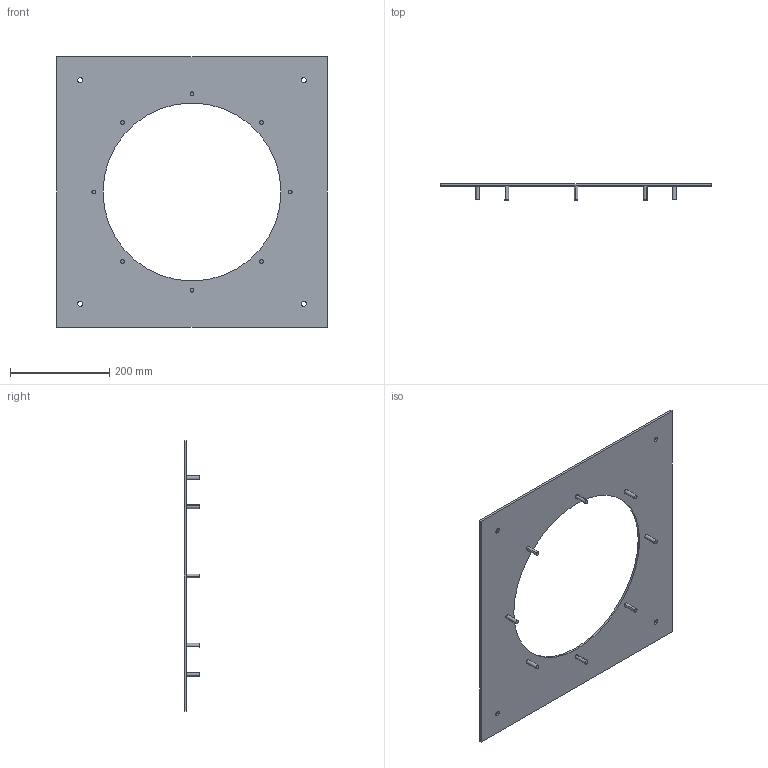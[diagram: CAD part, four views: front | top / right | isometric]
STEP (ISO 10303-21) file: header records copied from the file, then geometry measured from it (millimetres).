
FILE_DESCRIPTION(('STEP AP214'),'1');
FILE_NAME('accessory_5136823100.stp','2017-10-10T13:29:09',('TraceParts'),('TraceParts S.A.'),'Spatial InterOp 3D',' ',' ');
FILE_SCHEMA(('automotive_design'));
Length unit declared in the file: millimetre
Products named in the file (1): accessory_5136823100
Bounding box: 544 x 32 x 544 mm (x, y, z)
Volume: 791107.8 mm3; surface area: 409259.3 mm2
Topology: 1 solids, 1 shells, 40 faces, 90 edges, 60 vertices
Faces by surface type: cylinder 26, plane 14
Entity records: 1502 total; most frequent: DIRECTION 224, CARTESIAN_POINT 191, ORIENTED_EDGE 180, AXIS2_PLACEMENT_3D 93, EDGE_CURVE 90, VERTEX_POINT 60, EDGE_LOOP 58, CIRCLE 52
